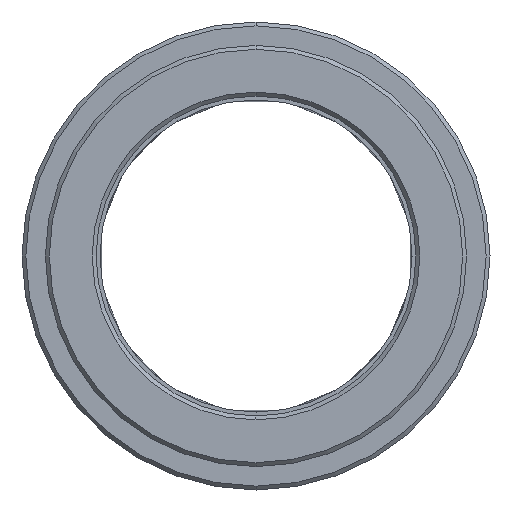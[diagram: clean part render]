
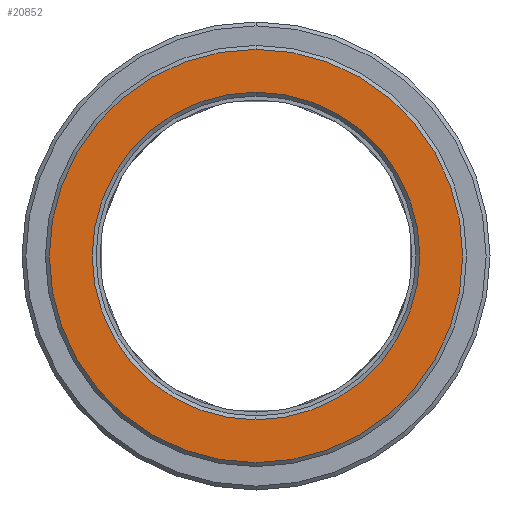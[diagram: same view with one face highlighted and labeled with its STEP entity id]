
A CAD part, left-side view. The second image highlights one B-rep face of the part: STEP entity #20852.
In plain terms, the highlighted planar face has unit normal (-1, 0, 0).
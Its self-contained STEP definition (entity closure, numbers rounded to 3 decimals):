
#8550=CARTESIAN_POINT('',(-10.,0.,
0.));
#8551=DIRECTION('',(1.,0.,0.));
#8552=DIRECTION('',(0.,0.,1.));
#8553=AXIS2_PLACEMENT_3D('',#8550,#8551,#8552);
#8555=CARTESIAN_POINT('',(-10.,0.,
0.));
#8556=DIRECTION('',(1.,0.,0.));
#8557=DIRECTION('',(0.,0.,-1.));
#8558=AXIS2_PLACEMENT_3D('',#8555,#8556,#8557);
#8560=CARTESIAN_POINT('',(-10.,0.,
0.));
#8561=DIRECTION('',(1.,0.,0.));
#8562=DIRECTION('',(0.,0.,1.));
#8563=AXIS2_PLACEMENT_3D('',#8560,#8561,#8562);
#8565=CARTESIAN_POINT('',(-10.,0.,
0.));
#8566=DIRECTION('',(1.,0.,0.));
#8567=DIRECTION('',(0.,0.,-1.));
#8568=AXIS2_PLACEMENT_3D('',#8565,#8566,#8567);
#17944=CARTESIAN_POINT('',(-10.,0.,21.));
#17945=CARTESIAN_POINT('',(-10.,0.,
-21.));
#17946=VERTEX_POINT('',#17944);
#17947=VERTEX_POINT('',#17945);
#17952=CARTESIAN_POINT('',(-10.,0.,26.5));
#17953=CARTESIAN_POINT('',(-10.,0.,
-26.5));
#17954=VERTEX_POINT('',#17952);
#17955=VERTEX_POINT('',#17953);
#20836=CARTESIAN_POINT('',(-10.,0.,0.));
#20837=DIRECTION('',(1.,0.,0.));
#20838=DIRECTION('',(0.,0.,1.));
#20839=AXIS2_PLACEMENT_3D('',#20836,#20837,#20838);
#20840=PLANE('',#20839);
#20842=ORIENTED_EDGE('',*,*,#20841,.T.);
#20844=ORIENTED_EDGE('',*,*,#20843,.T.);
#20845=EDGE_LOOP('',(#20842,#20844));
#20846=FACE_OUTER_BOUND('',#20845,.F.);
#20847=ORIENTED_EDGE('',*,*,#20826,.F.);
#20849=ORIENTED_EDGE('',*,*,#20848,.F.);
#20850=EDGE_LOOP('',(#20847,#20849));
#20851=FACE_BOUND('',#20850,.F.);
#20852=ADVANCED_FACE('',(#20846,#20851),#20840,.F.);
#8554=CIRCLE('',#8553,26.5);
#8559=CIRCLE('',#8558,26.5);
#8564=CIRCLE('',#8563,21.);
#8569=CIRCLE('',#8568,21.);
#20826=EDGE_CURVE('',#17946,#17947,#8564,.T.);
#20841=EDGE_CURVE('',#17954,#17955,#8554,.T.);
#20843=EDGE_CURVE('',#17955,#17954,#8559,.T.);
#20848=EDGE_CURVE('',#17947,#17946,#8569,.T.);
